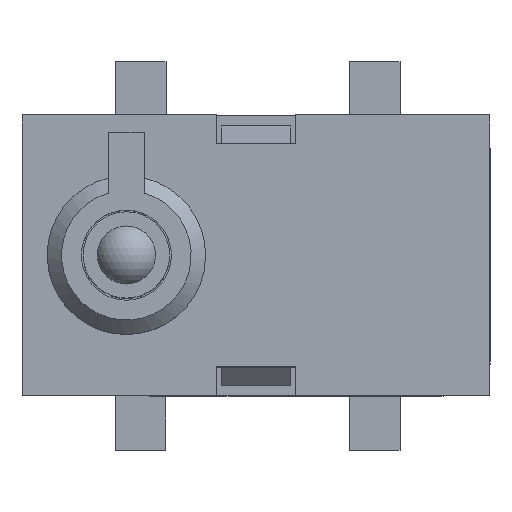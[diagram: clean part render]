
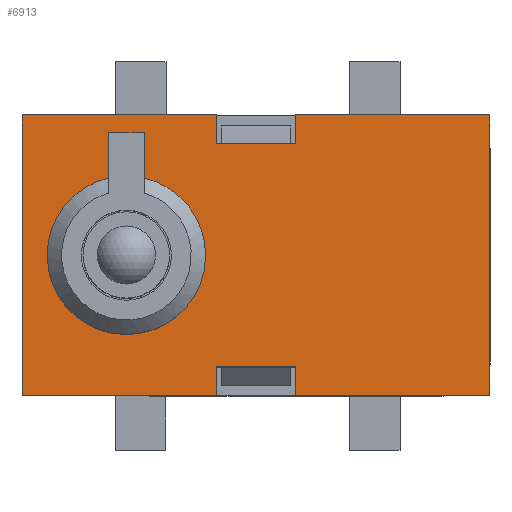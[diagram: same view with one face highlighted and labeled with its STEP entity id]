
A CAD part, top view. The second image highlights one B-rep face of the part: STEP entity #6913.
In plain terms, the highlighted planar face has unit normal (0, 0, 1).
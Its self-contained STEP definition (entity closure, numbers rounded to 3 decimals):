
#46 = DIRECTION ( 'NONE',  ( -1., 0., 0. ) ) ;
#60 = VECTOR ( 'NONE', #1852, 1000. ) ;
#99 = AXIS2_PLACEMENT_3D ( 'NONE', #1862, #5745, #4669 ) ;
#113 = CARTESIAN_POINT ( 'NONE',  ( 3.25, -1.95, 5. ) ) ;
#320 = EDGE_CURVE ( 'NONE', #5982, #6200, #4156, .T. ) ;
#464 = DIRECTION ( 'NONE',  ( -1., 0., 0. ) ) ;
#476 = DIRECTION ( 'NONE',  ( 0., -1., 0. ) ) ;
#480 = ORIENTED_EDGE ( 'NONE', *, *, #7015, .F. ) ;
#613 = CARTESIAN_POINT ( 'NONE',  ( 3.3, 1.95, 5. ) ) ;
#658 = VECTOR ( 'NONE', #464, 1000. ) ;
#664 = DIRECTION ( 'NONE',  ( 0., -1., 0. ) ) ;
#800 = VERTEX_POINT ( 'NONE', #6136 ) ;
#870 = VECTOR ( 'NONE', #4522, 1000. ) ;
#872 = ORIENTED_EDGE ( 'NONE', *, *, #2212, .F. ) ;
#899 = EDGE_CURVE ( 'NONE', #3285, #1990, #5433, .T. ) ;
#978 = VECTOR ( 'NONE', #6355, 1000. ) ;
#995 = LINE ( 'NONE', #5962, #658 ) ;
#1091 = AXIS2_PLACEMENT_3D ( 'NONE', #6138, #4434, #4975 ) ;
#1138 = LINE ( 'NONE', #5973, #2778 ) ;
#1177 = VERTEX_POINT ( 'NONE', #2029 ) ;
#1319 = LINE ( 'NONE', #613, #870 ) ;
#1331 = CARTESIAN_POINT ( 'NONE',  ( 0.55, 1.55, 5. ) ) ;
#1504 = FACE_BOUND ( 'NONE', #6543, .T. ) ;
#1515 = DIRECTION ( 'NONE',  ( 0., 1., 0. ) ) ;
#1548 = ORIENTED_EDGE ( 'NONE', *, *, #2920, .T. ) ;
#1553 = CARTESIAN_POINT ( 'NONE',  ( -0.55, -1.55, 5. ) ) ;
#1694 = VECTOR ( 'NONE', #476, 1000. ) ;
#1726 = VERTEX_POINT ( 'NONE', #4306 ) ;
#1852 = DIRECTION ( 'NONE',  ( 0., 1., 0. ) ) ;
#1862 = CARTESIAN_POINT ( 'NONE',  ( -1.8, 0., 5. ) ) ;
#1898 = CARTESIAN_POINT ( 'NONE',  ( 0.55, 1.95, 5. ) ) ;
#1917 = CARTESIAN_POINT ( 'NONE',  ( -0.55, 1.95, 5. ) ) ;
#1990 = VERTEX_POINT ( 'NONE', #4880 ) ;
#2029 = CARTESIAN_POINT ( 'NONE',  ( -3.25, 1.95, 5. ) ) ;
#2054 = VERTEX_POINT ( 'NONE', #1553 ) ;
#2087 = VECTOR ( 'NONE', #6180, 1000. ) ;
#2105 = EDGE_CURVE ( 'NONE', #3366, #2979, #995, .T. ) ;
#2107 = CARTESIAN_POINT ( 'NONE',  ( 0.55, 1.55, 5. ) ) ;
#2212 = EDGE_CURVE ( 'NONE', #5312, #2450, #6964, .T. ) ;
#2276 = CARTESIAN_POINT ( 'NONE',  ( -1.55, 1.071, 5. ) ) ;
#2383 = EDGE_CURVE ( 'NONE', #6200, #1177, #5932, .T. ) ;
#2450 = VERTEX_POINT ( 'NONE', #1898 ) ;
#2490 = VECTOR ( 'NONE', #3213, 1000. ) ;
#2539 = CARTESIAN_POINT ( 'NONE',  ( 0.55, 1.55, 5. ) ) ;
#2560 = VECTOR ( 'NONE', #4801, 1000. ) ;
#2638 = VERTEX_POINT ( 'NONE', #2276 ) ;
#2724 = VECTOR ( 'NONE', #6453, 1000. ) ;
#2735 = CARTESIAN_POINT ( 'NONE',  ( -0.55, -1.95, 5. ) ) ;
#2778 = VECTOR ( 'NONE', #1515, 1000. ) ;
#2805 = CARTESIAN_POINT ( 'NONE',  ( 0.55, -1.55, 5. ) ) ;
#2824 = DIRECTION ( 'NONE',  ( -1., 0., 0. ) ) ;
#2909 = CARTESIAN_POINT ( 'NONE',  ( -2.05, 0.865, 5. ) ) ;
#2920 = EDGE_CURVE ( 'NONE', #3908, #3457, #4550, .T. ) ;
#2979 = VERTEX_POINT ( 'NONE', #3053 ) ;
#3053 = CARTESIAN_POINT ( 'NONE',  ( -2.05, 1.7, 5. ) ) ;
#3080 = VECTOR ( 'NONE', #2824, 1000. ) ;
#3088 = EDGE_CURVE ( 'NONE', #2638, #3366, #1138, .T. ) ;
#3213 = DIRECTION ( 'NONE',  ( -1., 0., 0. ) ) ;
#3240 = DIRECTION ( 'NONE',  ( 0., 1., 0. ) ) ;
#3271 = ORIENTED_EDGE ( 'NONE', *, *, #2383, .F. ) ;
#3285 = VERTEX_POINT ( 'NONE', #6182 ) ;
#3332 = EDGE_CURVE ( 'NONE', #2979, #4394, #6489, .T. ) ;
#3356 = VECTOR ( 'NONE', #664, 1000. ) ;
#3366 = VERTEX_POINT ( 'NONE', #3443 ) ;
#3443 = CARTESIAN_POINT ( 'NONE',  ( -1.55, 1.7, 5. ) ) ;
#3448 = EDGE_LOOP ( 'NONE', ( #872, #4273, #1548, #5528, #3271, #4800, #5062, #4712, #3700, #4856, #5273, #6391 ) ) ;
#3457 = VERTEX_POINT ( 'NONE', #1917 ) ;
#3558 = LINE ( 'NONE', #113, #2087 ) ;
#3584 = VECTOR ( 'NONE', #3240, 1000. ) ;
#3700 = ORIENTED_EDGE ( 'NONE', *, *, #5259, .T. ) ;
#3715 = CARTESIAN_POINT ( 'NONE',  ( 3.3, -1.95, 5. ) ) ;
#3774 = CARTESIAN_POINT ( 'NONE',  ( -3.25, -1.95, 5. ) ) ;
#3792 = CARTESIAN_POINT ( 'NONE',  ( -0.55, -1.55, 5. ) ) ;
#3908 = VERTEX_POINT ( 'NONE', #6169 ) ;
#3976 = PLANE ( 'NONE',  #1091 ) ;
#3981 = CARTESIAN_POINT ( 'NONE',  ( 0.55, -1.55, 5. ) ) ;
#3993 = CARTESIAN_POINT ( 'NONE',  ( -3.25, -1.95, 5. ) ) ;
#4070 = ORIENTED_EDGE ( 'NONE', *, *, #3088, .F. ) ;
#4081 = VECTOR ( 'NONE', #46, 1000. ) ;
#4156 = LINE ( 'NONE', #5526, #2490 ) ;
#4170 = LINE ( 'NONE', #2805, #4081 ) ;
#4196 = EDGE_CURVE ( 'NONE', #5312, #3908, #4213, .T. ) ;
#4213 = LINE ( 'NONE', #2539, #2724 ) ;
#4256 = CIRCLE ( 'NONE', #99, 1.1 ) ;
#4273 = ORIENTED_EDGE ( 'NONE', *, *, #4196, .T. ) ;
#4306 = CARTESIAN_POINT ( 'NONE',  ( 3.25, 1.95, 5. ) ) ;
#4394 = VERTEX_POINT ( 'NONE', #4891 ) ;
#4434 = DIRECTION ( 'NONE',  ( 0., 0., -1. ) ) ;
#4506 = EDGE_CURVE ( 'NONE', #2054, #5982, #6957, .T. ) ;
#4522 = DIRECTION ( 'NONE',  ( -1., 0., 0. ) ) ;
#4550 = LINE ( 'NONE', #4758, #978 ) ;
#4669 = DIRECTION ( 'NONE',  ( 0., -1., 0. ) ) ;
#4712 = ORIENTED_EDGE ( 'NONE', *, *, #5216, .F. ) ;
#4758 = CARTESIAN_POINT ( 'NONE',  ( -0.55, 1.55, 5. ) ) ;
#4784 = CARTESIAN_POINT ( 'NONE',  ( 3.3, 1.95, 5. ) ) ;
#4800 = ORIENTED_EDGE ( 'NONE', *, *, #320, .F. ) ;
#4801 = DIRECTION ( 'NONE',  ( -1., 0., 0. ) ) ;
#4856 = ORIENTED_EDGE ( 'NONE', *, *, #899, .F. ) ;
#4880 = CARTESIAN_POINT ( 'NONE',  ( 0.55, -1.95, 5. ) ) ;
#4891 = CARTESIAN_POINT ( 'NONE',  ( -2.05, 1.071, 5. ) ) ;
#4934 = ORIENTED_EDGE ( 'NONE', *, *, #3332, .F. ) ;
#4941 = VECTOR ( 'NONE', #6772, 1000. ) ;
#4975 = DIRECTION ( 'NONE',  ( 0., -1., 0. ) ) ;
#5062 = ORIENTED_EDGE ( 'NONE', *, *, #4506, .F. ) ;
#5181 = ORIENTED_EDGE ( 'NONE', *, *, #2105, .F. ) ;
#5216 = EDGE_CURVE ( 'NONE', #800, #2054, #4170, .T. ) ;
#5234 = EDGE_CURVE ( 'NONE', #3457, #1177, #1319, .T. ) ;
#5259 = EDGE_CURVE ( 'NONE', #800, #1990, #7069, .T. ) ;
#5273 = ORIENTED_EDGE ( 'NONE', *, *, #6907, .T. ) ;
#5312 = VERTEX_POINT ( 'NONE', #1331 ) ;
#5433 = LINE ( 'NONE', #3715, #3080 ) ;
#5526 = CARTESIAN_POINT ( 'NONE',  ( 3.3, -1.95, 5. ) ) ;
#5528 = ORIENTED_EDGE ( 'NONE', *, *, #5234, .T. ) ;
#5745 = DIRECTION ( 'NONE',  ( 0., 0., 1. ) ) ;
#5785 = LINE ( 'NONE', #4784, #2560 ) ;
#5932 = LINE ( 'NONE', #3993, #60 ) ;
#5962 = CARTESIAN_POINT ( 'NONE',  ( -1.55, 1.7, 5. ) ) ;
#5973 = CARTESIAN_POINT ( 'NONE',  ( -1.55, 0.865, 5. ) ) ;
#5980 = FACE_OUTER_BOUND ( 'NONE', #3448, .T. ) ;
#5982 = VERTEX_POINT ( 'NONE', #2735 ) ;
#6136 = CARTESIAN_POINT ( 'NONE',  ( 0.55, -1.55, 5. ) ) ;
#6138 = CARTESIAN_POINT ( 'NONE',  ( 3.3, -1.95, 5. ) ) ;
#6160 = EDGE_CURVE ( 'NONE', #1726, #2450, #5785, .T. ) ;
#6169 = CARTESIAN_POINT ( 'NONE',  ( -0.55, 1.55, 5. ) ) ;
#6180 = DIRECTION ( 'NONE',  ( 0., 1., 0. ) ) ;
#6182 = CARTESIAN_POINT ( 'NONE',  ( 3.25, -1.95, 5. ) ) ;
#6200 = VERTEX_POINT ( 'NONE', #3774 ) ;
#6355 = DIRECTION ( 'NONE',  ( 0., 1., 0. ) ) ;
#6391 = ORIENTED_EDGE ( 'NONE', *, *, #6160, .T. ) ;
#6453 = DIRECTION ( 'NONE',  ( -1., 0., 0. ) ) ;
#6489 = LINE ( 'NONE', #2909, #4941 ) ;
#6543 = EDGE_LOOP ( 'NONE', ( #4070, #480, #4934, #5181 ) ) ;
#6772 = DIRECTION ( 'NONE',  ( 0., -1., 0. ) ) ;
#6907 = EDGE_CURVE ( 'NONE', #3285, #1726, #3558, .T. ) ;
#6913 = ADVANCED_FACE ( 'NONE', ( #5980, #1504 ), #3976, .F. ) ;
#6957 = LINE ( 'NONE', #3792, #1694 ) ;
#6964 = LINE ( 'NONE', #2107, #3584 ) ;
#7015 = EDGE_CURVE ( 'NONE', #4394, #2638, #4256, .T. ) ;
#7069 = LINE ( 'NONE', #3981, #3356 ) ;
